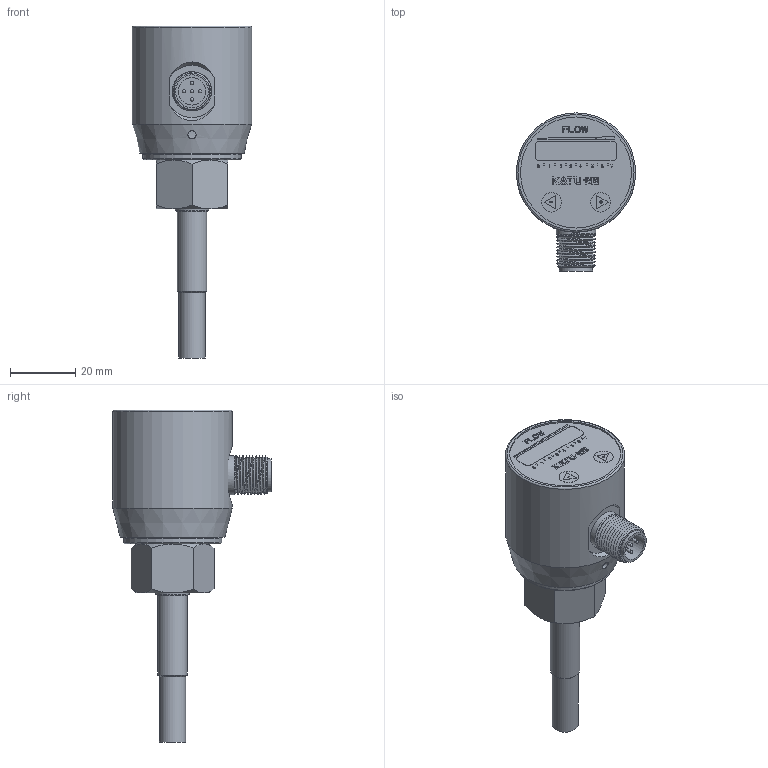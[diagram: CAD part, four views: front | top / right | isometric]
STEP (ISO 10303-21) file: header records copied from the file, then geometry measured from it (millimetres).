
FILE_DESCRIPTION( (''), '2;1');
FILE_NAME( 'QSKD_M18_L60.step', '2024-04-08T08:23:02+08:00', (''), (''), '', '', '');
FILE_SCHEMA (('AUTOMOTIVE_DESIGN { 1 0 10303 214 3 1 1 1 }'));
Length unit declared in the file: millimetre
Products named in the file (1): QSKD M18_L60
Bounding box: 36.5 x 48.4 x 101.6 mm (x, y, z)
Volume: 52819.5 mm3; surface area: 16945.3 mm2
Topology: 5 solids, 5 shells, 713 faces, 1876 edges, 1240 vertices
Faces by surface type: plane 590, cylinder 63, cone 28, bspline 18, sphere 11, torus 3
Full cylindrical faces by diameter (mm): 1 x10, 2.5 x1, 6 x2, 6.8 x1, 8 x1, 8.4 x1, 9 x1, 9.7 x1, 9.8 x1, 10.1 x1, 11 x1, 11.6 x2, 12 x2, 13.4 x1, 13.7 x1, 15.4 x1, 16.1 x1, 16.5 x4, 23 x3, 26.1 x4, 30 x1, 34 x1, 36.5 x1
Entity records: 23355 total; most frequent: CARTESIAN_POINT 6472, ORIENTED_EDGE 3486, DIRECTION 3180, EDGE_CURVE 1743, LINE 1522, VECTOR 1522, VERTEX_POINT 1188, EDGE_LOOP 853
